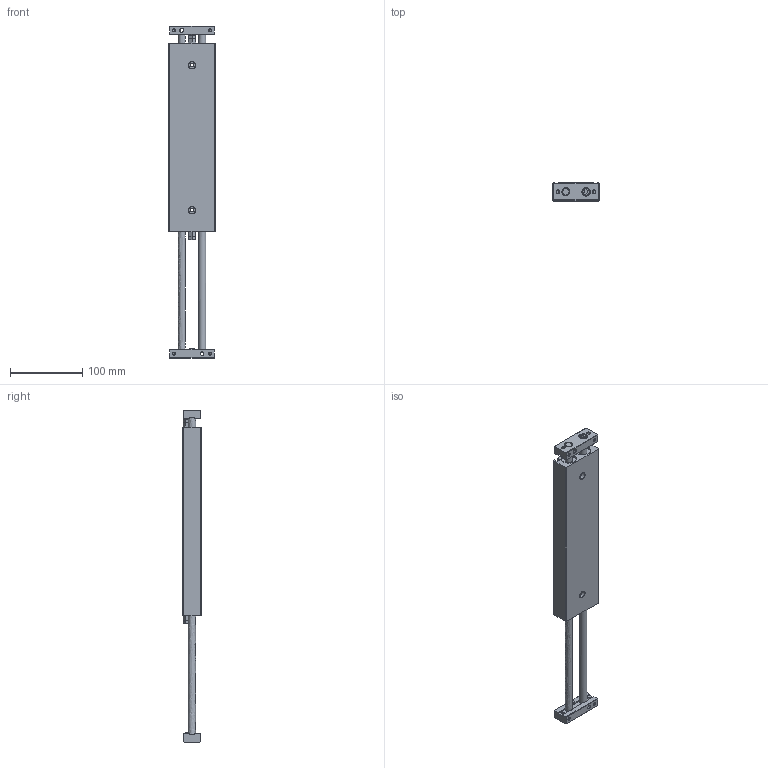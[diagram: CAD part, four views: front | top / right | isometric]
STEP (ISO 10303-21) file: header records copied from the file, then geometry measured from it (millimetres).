
FILE_DESCRIPTION((''),'2;1');
FILE_NAME('I:\3D電子目錄\氣缸\STX\STX\STX20\STX20x250.stp','2007-10-02T08:34:48',('Administrator'),(''),'Autodesk Inventor 11','Autodesk Inventor 11','');
FILE_SCHEMA(('AUTOMOTIVE_DESIGN { 1 0 10303 214 1 1 1 1 }'));
Length unit declared in the file: millimetre
Products named in the file (1): STX20
Bounding box: 64 x 25 x 458 mm (x, y, z)
Volume: 451563.9 mm3; surface area: 82890.8 mm2
Topology: 1 solids, 1 shells, 277 faces, 685 edges, 425 vertices
Faces by surface type: plane 133, cone 75, bspline 42, cylinder 23, torus 4
Full cylindrical faces by diameter (mm): 3.242 x4, 6 x2, 9.5 x2, 10 x6, 10.2 x2, 11 x1, 11.2 x1, 21 x2, 22.2 x2
Entity records: 7915 total; most frequent: CARTESIAN_POINT 2261, DIRECTION 1108, ORIENTED_EDGE 1106, EDGE_CURVE 553, AXIS2_PLACEMENT_3D 424, EDGE_LOOP 408, VERTEX_POINT 381, FACE_OUTER_BOUND 276
